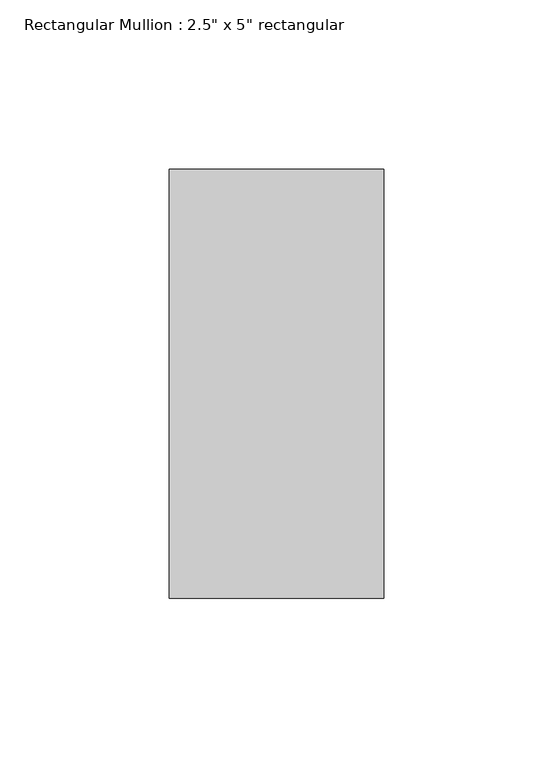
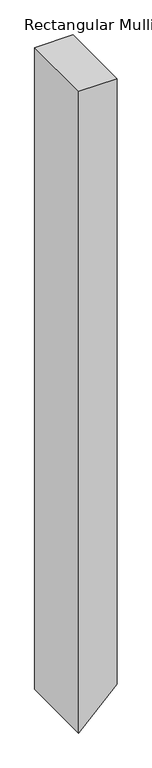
"""IFC4 building model written with IfcOpenShell, lengths in millimetres: member geometry."""

import ifcopenshell
import ifcopenshell.guid

model = None  # the IFC model being written
_history = None  # IfcOwnerHistory: only IFC2X3 demands one
_inside = {}  # id of a spatial element -> (the spatial element, [elements in it])
_under = {}  # id of a project, library or spatial element -> (it, [spatial elements below it])
_declared = {}  # id of a project -> (the project, [libraries it declares])
_typed = {}  # id of a type object -> (the type object, [elements of that type])
_made_of = {}  # id of a material, layer set ... -> (it, [elements and type objects made of it])


def new_model(schema):
    """Start an empty IFC model of exactly this schema.

    Asked for "IFC4X3", IfcOpenShell would pick the latest addendum, in which some entities
    have other attributes; the version numbers below select the first issue.
    IFC2X3 requires an IfcOwnerHistory on every rooted entity: one is made here for all.
    """
    global model, _history
    if schema == "IFC4X3":
        model = ifcopenshell.file(schema_version=(4, 3, 0, 0))
    else:
        model = ifcopenshell.file(schema=schema)
    _inside.clear()
    _under.clear()
    _declared.clear()
    _typed.clear()
    _made_of.clear()
    _history = None
    if model.schema == "IFC2X3":
        org = make("IfcOrganization", Name="unknown")
        user = make(
            "IfcPersonAndOrganization",
            ThePerson=make("IfcPerson", FamilyName="unknown"),
            TheOrganization=org,
        )
        app = make(
            "IfcApplication",
            ApplicationDeveloper=org,
            Version="unknown",
            ApplicationFullName="unknown",
            ApplicationIdentifier="unknown",
        )
        _history = make(
            "IfcOwnerHistory",
            OwningUser=user,
            OwningApplication=app,
            ChangeAction="ADDED",
            CreationDate=0,
        )
    return model


def make(cls, **values):
    """One entity of the class cls with the attributes given. An attribute that is None is left unset."""
    return model.create_entity(
        cls, **{name: value for name, value in values.items() if value is not None}
    )


def rooted(cls, **values):
    """An entity with a GlobalId (a new one), such as an element, a storey or a relation."""
    return make(cls, GlobalId=ifcopenshell.guid.new(), OwnerHistory=_history, **values)


def si_unit(unit_type, name, prefix=None):
    """IfcSIUnit, for example si_unit("LENGTHUNIT", "METRE", prefix="MILLI")."""
    return make("IfcSIUnit", UnitType=unit_type, Prefix=prefix, Name=name)


def assignment(units):
    """IfcUnitAssignment: the units of a project."""
    return None if units is None else make("IfcUnitAssignment", Units=units)


def point(xyz):
    """IfcCartesianPoint."""
    return None if xyz is None else make("IfcCartesianPoint", Coordinates=xyz)


def direction(xyz):
    """IfcDirection."""
    return None if xyz is None else make("IfcDirection", DirectionRatios=xyz)


def frame(location, z_axis=None, x_axis=None):
    """IfcAxis2Placement3D, a coordinate frame: its origin and axes. An axis left out is left unset."""
    return make(
        "IfcAxis2Placement3D",
        Location=point(location),
        Axis=direction(z_axis),
        RefDirection=direction(x_axis),
    )


def origin():
    """The frame at (0, 0, 0) with its axes left unset."""
    return frame((0.0, 0.0, 0.0))


def place(relative_to, where):
    """IfcLocalPlacement: puts the frame where relative to a parent placement (None: the world)."""
    return make(
        "IfcLocalPlacement", PlacementRelTo=relative_to, RelativePlacement=where
    )


def context(
    kind, dimensions, precision=None, world=None, true_north=None, identifier=None
):
    """IfcGeometricRepresentationContext, for example the 3D "Model" context."""
    return make(
        "IfcGeometricRepresentationContext",
        ContextIdentifier=identifier,
        ContextType=kind,
        CoordinateSpaceDimension=dimensions,
        Precision=precision,
        WorldCoordinateSystem=world,
        TrueNorth=true_north,
    )


def project(units=None, contexts=None):
    """IfcProject with its units and contexts."""
    return rooted(
        "IfcProject",
        Name="project",
        RepresentationContexts=contexts,
        UnitsInContext=assignment(units),
    )


def spatial(cls, under=None, at=None, **own):
    """A site, building, storey or space (cls), placed at a placement, below another one or the project."""
    s = rooted(cls, ObjectPlacement=at, **own)
    if under is not None:
        _under.setdefault(under.id(), (under, []))[1].append(s)
    return s


def polyline(points):
    """IfcPolyline through the points."""
    return make("IfcPolyline", Points=[point(p) for p in points])


def outline(outer, holes=None, kind="AREA"):
    """IfcArbitraryClosedProfileDef: a profile drawn as a closed curve; with holes, ...WithVoids."""
    if holes is None:
        return make("IfcArbitraryClosedProfileDef", ProfileType=kind, OuterCurve=outer)
    return make(
        "IfcArbitraryProfileDefWithVoids",
        ProfileType=kind,
        OuterCurve=outer,
        InnerCurves=holes,
    )


def extrude(swept, where, along, depth):
    """IfcExtrudedAreaSolid: the profile swept, set in the frame where, extruded along a direction by depth."""
    return make(
        "IfcExtrudedAreaSolid",
        SweptArea=swept,
        Position=where,
        ExtrudedDirection=direction(along),
        Depth=depth,
    )


def shape(context_of_items, identifier, shape_type, items):
    """IfcShapeRepresentation: the items that make up one representation, for example the "Body"."""
    return make(
        "IfcShapeRepresentation",
        ContextOfItems=context_of_items,
        RepresentationIdentifier=identifier,
        RepresentationType=shape_type,
        Items=items,
    )


def source(mapping_origin, context_of_items, identifier, shape_type, items):
    """IfcRepresentationMap: a shape defined once, which mapped items show again and again."""
    return make(
        "IfcRepresentationMap",
        MappingOrigin=mapping_origin,
        MappedRepresentation=shape(context_of_items, identifier, shape_type, items),
    )


def transform(
    local_origin,
    x_axis=None,
    y_axis=None,
    z_axis=None,
    scale=None,
    scale2=None,
    scale3=None,
    uniform=True,
):
    """IfcCartesianTransformationOperator3D, or its non-uniform kind. x_axis, y_axis, z_axis: its Axis1, 2, 3."""
    if uniform:
        return make(
            "IfcCartesianTransformationOperator3D",
            Axis1=direction(x_axis),
            Axis2=direction(y_axis),
            LocalOrigin=point(local_origin),
            Scale=scale,
            Axis3=direction(z_axis),
        )
    return make(
        "IfcCartesianTransformationOperator3DnonUniform",
        Axis1=direction(x_axis),
        Axis2=direction(y_axis),
        LocalOrigin=point(local_origin),
        Scale=scale,
        Axis3=direction(z_axis),
        Scale2=scale2,
        Scale3=scale3,
    )


def mapped(mapping_source, mapping_target):
    """IfcMappedItem: shows the shape of a source again, moved by a transform."""
    return make(
        "IfcMappedItem", MappingSource=mapping_source, MappingTarget=mapping_target
    )


def made_of(thing, what):
    """Note that an element or type object is made of a material, layer set ...; save() writes the relation."""
    if what is not None:
        _made_of.setdefault(what.id(), (what, []))[1].append(thing)
    return thing


def element(
    cls,
    number,
    at=None,
    inside=None,
    cuts=None,
    type_object=None,
    material=None,
    context=None,
    identifier="Body",
    shape_type=None,
    held_by="IfcProductDefinitionShape",
    body=None,
    shapes=None,
    **own,
):
    """One element of the class cls, such as IfcWall. Its Tag is "e" and its number.

    at: its placement. inside: the storey or other place that contains it. cuts: it is an
    opening in that element (IfcRelVoidsElement). A single representation is given by context,
    identifier, shape_type and body (its items); several are given by shapes. held_by: the class
    of the entity that holds the representations. save() writes the other relations.
    """
    e = rooted(cls, Tag="e%d" % number, ObjectPlacement=at, **own)
    if body is not None:
        shapes = [shape(context, identifier, shape_type, body)]
    if shapes is not None:
        e.Representation = make(held_by, Representations=shapes)
    if inside is not None:
        _inside.setdefault(inside.id(), (inside, []))[1].append(e)
    if cuts is not None:
        rooted(
            "IfcRelVoidsElement", RelatingBuildingElement=cuts, RelatedOpeningElement=e
        )
    if type_object is not None:
        _typed.setdefault(type_object.id(), (type_object, []))[1].append(e)
    return made_of(e, material)


def aggregate(whole, parts):
    """IfcRelAggregates: a whole, such as a stair, and the parts it consists of."""
    return rooted("IfcRelAggregates", RelatingObject=whole, RelatedObjects=parts)


def save(model, path):
    """Write the relations noted so far, then the file.

    IfcRelAggregates (storeys below a building ...), IfcRelContainedInSpatialStructure (elements
    in a storey), IfcRelDefinesByType, IfcRelAssociatesMaterial and IfcRelDeclares: one each for
    every whole, place, type object, material and project.
    """
    for whole, parts in _under.values():
        aggregate(whole, parts)
    for where, things in _inside.values():
        rooted(
            "IfcRelContainedInSpatialStructure",
            RelatedElements=things,
            RelatingStructure=where,
        )
    for kind, things in _typed.values():
        rooted("IfcRelDefinesByType", RelatedObjects=things, RelatingType=kind)
    for what, things in _made_of.values():
        rooted("IfcRelAssociatesMaterial", RelatedObjects=things, RelatingMaterial=what)
    for by, libraries in _declared.values():
        rooted("IfcRelDeclares", RelatingContext=by, RelatedDefinitions=libraries)
    model.write(path)


def member_1c74df8a(model_context):
    return source(origin(), model_context, "Body", "SweptSolid", [
        extrude(outline(polyline([(0.0, 31.75), (0.0, -31.75), (-1129.397439, -31.75), (-1065.897439, 31.75), (0.0, 31.75)])), frame((0.0, -63.5, 0.0), z_axis=(0.0, 1.0, 0.0), x_axis=(0.0, 0.0, 1.0)), (0.0, 0.0, 1.0), 127.0),
    ])


if __name__ == "__main__":
    model = new_model("IFC4")
    model_context = context("Model", 3, world=origin())
    ifc_project = project(units=[si_unit("LENGTHUNIT", "METRE", prefix="MILLI")], contexts=[model_context])
    site = spatial("IfcSite", under=ifc_project)
    building = spatial("IfcBuilding", under=site)
    placement = place(None, origin())
    member_shape = member_1c74df8a(model_context)
    element("IfcMember", 1, ObjectType="Rectangular Mullion : 2.5\" x 5\" rectangular", at=placement, inside=building, context=model_context, shape_type="MappedRepresentation", body=[
        mapped(member_shape, transform((0.0, 0.0, 0.0), x_axis=(1.0, 0.0, 0.0), y_axis=(0.0, 1.0, 0.0), z_axis=(0.0, 0.0, 1.0))),
    ])
    save(model, "model.ifc")
